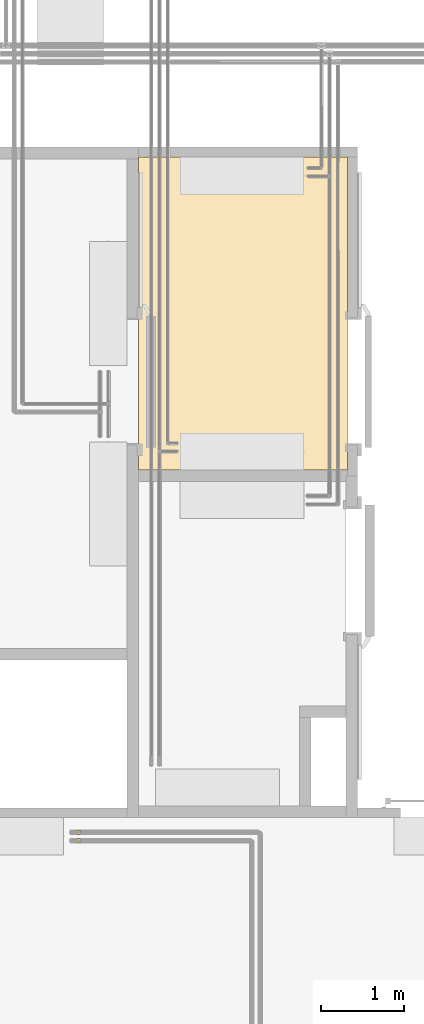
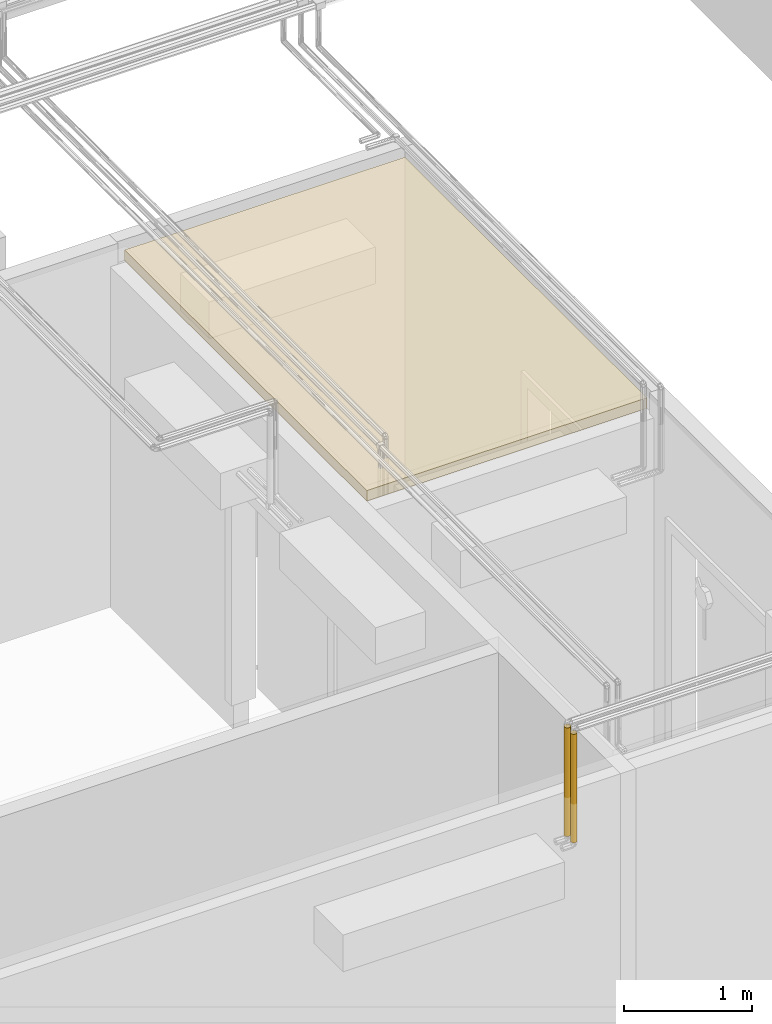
# One storey, part 45 of 652: 3 coverings.
"""IFC2X3 building model written with IfcOpenShell, lengths in millimetres."""

from ifc_helpers import new_model, entity, si_unit, converted_unit, direction, frame, frame_2d, origin, origin_2d_with_axis, place, context, subcontext, project, spatial, rectangle, circle, extrude, material, layer, layer_set, layer_usage, type_object, element, save


model = new_model("IFC2X3")

# Units and contexts
model_context = context("Model", 3, precision=0.01, world=frame((0.0, 0.0, 308426.39999999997)), true_north=direction((6.123233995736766e-17, 1.0)))
plan_context = context("Plan", 3, precision=0.01, world=frame((0.0, 0.0, 308426.39999999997)), true_north=direction((6.123233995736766e-17, 1.0)))
body_context = subcontext(model_context, "Body", "Model", "MODEL_VIEW")
ifc_project = project(units=[si_unit("LENGTHUNIT", "METRE", prefix="MILLI"), si_unit("AREAUNIT", "SQUARE_METRE"), si_unit("VOLUMEUNIT", "CUBIC_METRE"), converted_unit("PLANEANGLEUNIT", "DEGREE", entity("IfcPlaneAngleMeasure", 0.017453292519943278), si_unit("PLANEANGLEUNIT", "RADIAN"), dimensions=[0, 0, 0, 0, 0, 0, 0])], contexts=[model_context, plan_context])

# Site, building, storey
site_placement = place(None, origin())
site = spatial("IfcSite", under=ifc_project, at=site_placement, Name="Default", CompositionType="ELEMENT")
building_placement = place(site_placement, origin())
building = spatial("IfcBuilding", under=site, at=building_placement, CompositionType="ELEMENT")
storey_placement = place(building_placement, frame((0.0, 0.0, 1730.6999999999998)))
storey = spatial("IfcBuildingStorey", under=building, at=storey_placement, Name="EG_Produktion_FFB", CompositionType="ELEMENT", Elevation=1730.6999999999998)

# Coverings
ifc_material_1 = material(Name="GPG_Kühlraum")
ifc_layer_1 = layer(ifc_material_1, 8.0)
ifc_layer_2 = layer(ifc_material_1, 84.0)
ifc_layer_3 = layer(ifc_material_1, 8.0)
ifc_layer_set = layer_set([ifc_layer_1, ifc_layer_2, ifc_layer_3], Name="Deckensystem:Kühlraum 100")
ifc_layer_usage = layer_usage(ifc_layer_set, "AXIS3", "NEGATIVE", 100.0)
covering_type_1 = type_object("IfcCoveringType", Name="Deckensystem:Kühlraum 100", PredefinedType="CEILING")
covering_1_placement = place(storey_placement, origin())
element("IfcCovering", 1, at=covering_1_placement, inside=storey, type_object=covering_type_1, material=ifc_layer_usage, Name="Deckensystem:Kühlraum 100", ObjectType="Deckensystem:Kühlraum 100", PredefinedType="CEILING", context=body_context, shape_type="SweptSolid", body=[
    extrude(rectangle(XDim=2530.000000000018, YDim=3787.905840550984, at=frame_2d((-2.1600499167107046e-12, 8.753886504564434e-12), x_axis=(1.0, 0.0))), frame((36690.0, 56703.95292027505, 3000.0), z_axis=(0.0, 0.0, 1.0), x_axis=(-1.0, 0.0, 0.0)), (0.0, 0.0, 1.0), 100.0),
])
ifc_material_2 = material(Name="Dämmung - Armaflex-Schlauch")
covering_type_2 = type_object("IfcCoveringType", Name="Rohrdämmung außen:Armaflex-Schlauch", PredefinedType="INSULATION")
covering_2_placement = place(storey_placement, origin())
element("IfcCovering", 2, at=covering_2_placement, inside=storey, type_object=covering_type_2, material=ifc_material_2, Name="Rohrdämmung außen:Armaflex-Schlauch", ObjectType="Rohrdämmung außen:Armaflex-Schlauch", PredefinedType="INSULATION", context=body_context, shape_type="SweptSolid", body=[
    extrude(circle(Radius=26.9375, at=origin_2d_with_axis()), frame((34702.37843313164, 50422.03655774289, 2731.983749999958), z_axis=(0.0, 0.0, 1.0), x_axis=(0.0, 1.0, 0.0)), (0.0, 0.0, 1.0), 1036.0324999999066),
])
covering_3_placement = place(storey_placement, origin())
element("IfcCovering", 3, at=covering_3_placement, inside=storey, type_object=covering_type_2, material=ifc_material_2, Name="Rohrdämmung außen:Armaflex-Schlauch", ObjectType="Rohrdämmung außen:Armaflex-Schlauch", PredefinedType="INSULATION", context=body_context, shape_type="SweptSolid", body=[
    extrude(circle(Radius=26.9375, at=origin_2d_with_axis()), frame((34702.37843313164, 50322.036557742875, 2731.983749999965), z_axis=(0.0, 0.0, 1.0), x_axis=(0.0, 1.0, 0.0)), (0.0, 0.0, 1.0), 1036.0324999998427),
])

save(model, "model.ifc")
